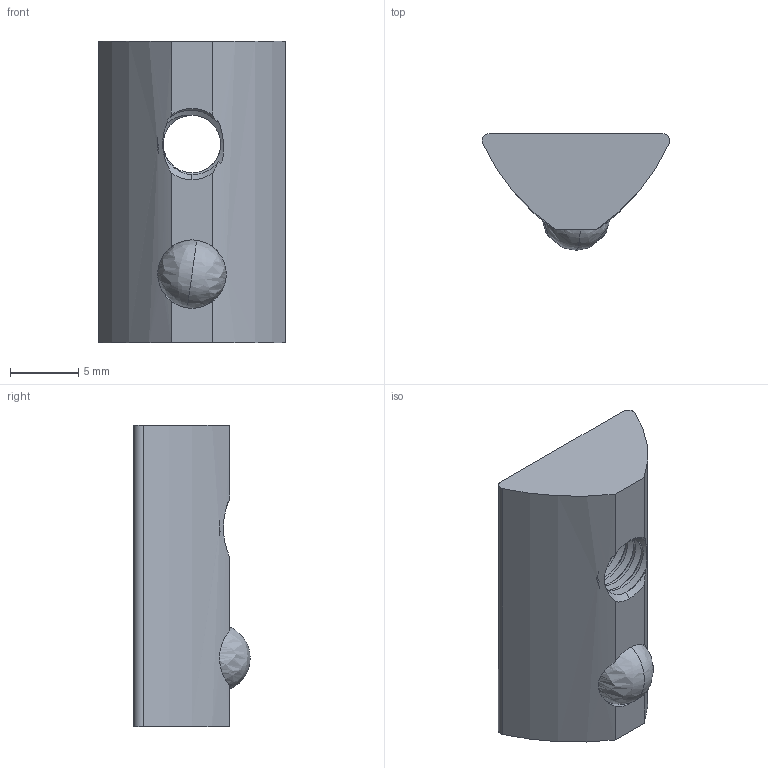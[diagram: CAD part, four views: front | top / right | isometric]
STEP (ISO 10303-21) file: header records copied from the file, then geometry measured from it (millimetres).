
FILE_DESCRIPTION (( 'STEP AP203' ), '1' );
FILE_NAME ('998097_Nutenstein 8 M5 einschwenkbar mit Kugel (ohne Steg).step', '2022-09-16T08:49:25', ( '' ), ( '' ), 'SwSTEP 2.0', 'SolidWorks 2021', '' );
FILE_SCHEMA (( 'CONFIG_CONTROL_DESIGN' ));
Length unit declared in the file: millimetre
Products named in the file (1): 998097_Nutenstein 8 M5 einschwenkbar mit Kugel (ohne Steg)
Bounding box: 13.7 x 8.5 x 22 mm (x, y, z)
Volume: 1326.9 mm3; surface area: 1178.9 mm2
Topology: 2 solids, 2 shells, 44 faces, 128 edges, 82 vertices
Faces by surface type: cylinder 23, bspline 7, cone 7, plane 7
Entity records: 4094 total; most frequent: CARTESIAN_POINT 3027, ORIENTED_EDGE 248, DIRECTION 167, EDGE_CURVE 124, VERTEX_POINT 82, AXIS2_PLACEMENT_3D 65, EDGE_LOOP 46, ADVANCED_FACE 44
